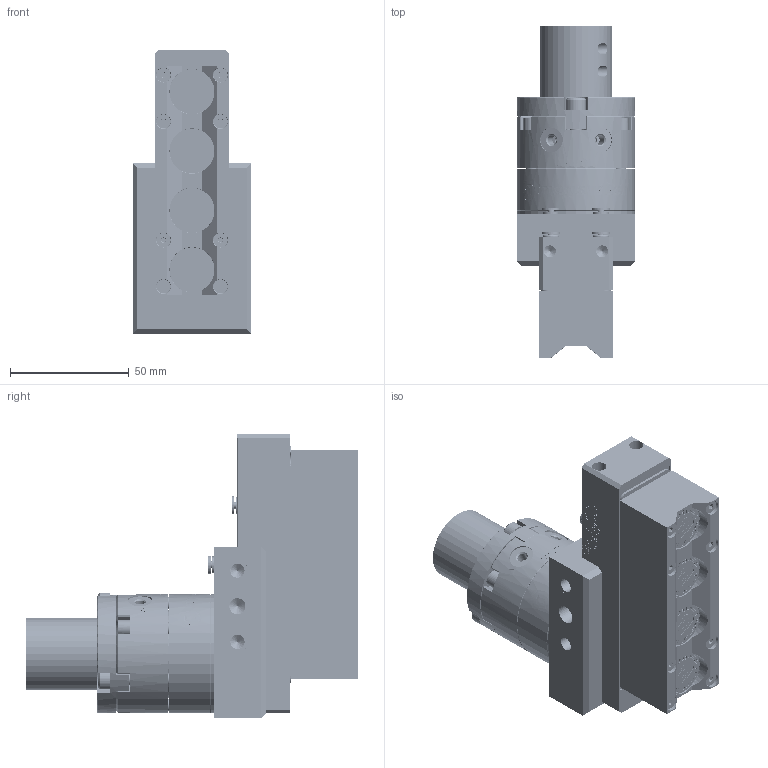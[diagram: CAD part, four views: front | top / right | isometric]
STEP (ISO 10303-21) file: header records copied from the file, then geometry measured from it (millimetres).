
FILE_DESCRIPTION (( 'STEP AP203' ), '1' );
FILE_NAME ('81401725_CFM.STEP', '2026-02-19T21:40:57', ( '' ), ( '' ), 'SwSTEP 2.0', 'SolidWorks 2024', '' );
FILE_SCHEMA (( 'CONFIG_CONTROL_DESIGN' ));
Products named in the file (1): 81401725_CFM
Bounding box: 50 x 139.76 x 119.5 mm (x, y, z)
Volume: 313174.5 mm3; surface area: 103585.2 mm2
Topology: 52 solids, 54 shells, 5283 faces, 13893 edges, 9021 vertices
Faces by surface type: plane 1955, bspline 1502, cylinder 1332, cone 440, torus 54
Entity records: 284476 total; most frequent: CARTESIAN_POINT 168543, ORIENTED_EDGE 27654, DIRECTION 18265, EDGE_CURVE 13827, VERTEX_POINT 9021, LINE 7105, VECTOR 7105, EDGE_LOOP 5754
